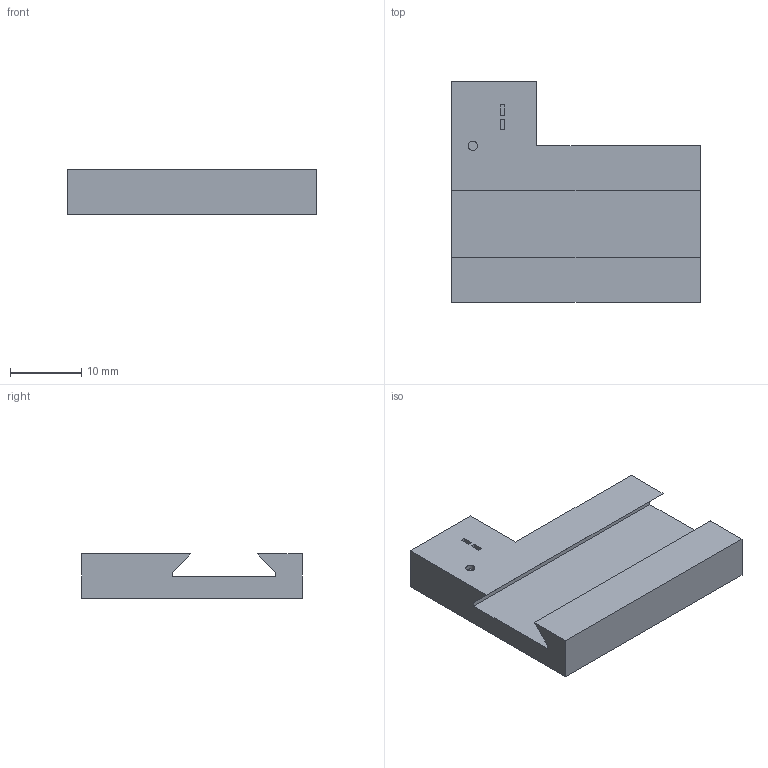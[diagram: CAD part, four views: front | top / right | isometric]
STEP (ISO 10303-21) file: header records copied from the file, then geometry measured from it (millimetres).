
FILE_DESCRIPTION(('Open CASCADE Model'),'2;1');
FILE_NAME('Open CASCADE Shape Model','2026-09-13T15:34:20',('Author'),( 'Open CASCADE'),'Open CASCADE STEP processor 7.9','build123d', 'Unknown');
FILE_SCHEMA(('AUTOMOTIVE_DESIGN { 1 0 10303 214 1 1 1 1 }'));
Length unit declared in the file: millimetre
Products named in the file (1): COMPOUND
Bounding box: 35 x 31 x 6.2 mm (x, y, z)
Volume: 4043.1 mm3; surface area: 2983.4 mm2
Topology: 1 solids, 1 shells, 26 faces, 63 edges, 42 vertices
Faces by surface type: plane 25, cylinder 1
Full cylindrical faces by diameter (mm): 1.3 x1
Entity records: 1558 total; most frequent: CARTESIAN_POINT 287, DIRECTION 221, LINE 162, VECTOR 162, ORIENTED_EDGE 126, PCURVE 126, DEFINITIONAL_REPRESENTATION 126, EDGE_CURVE 63
